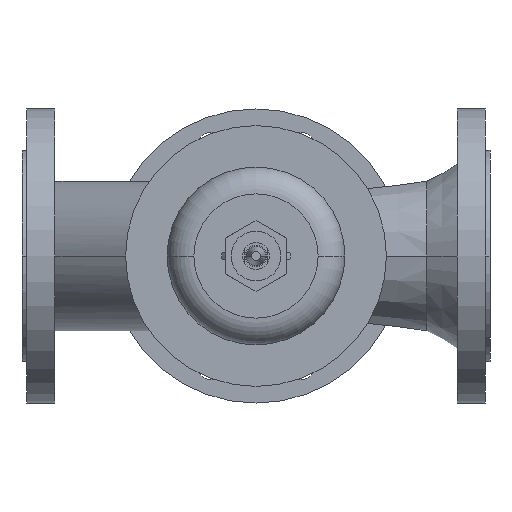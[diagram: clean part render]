
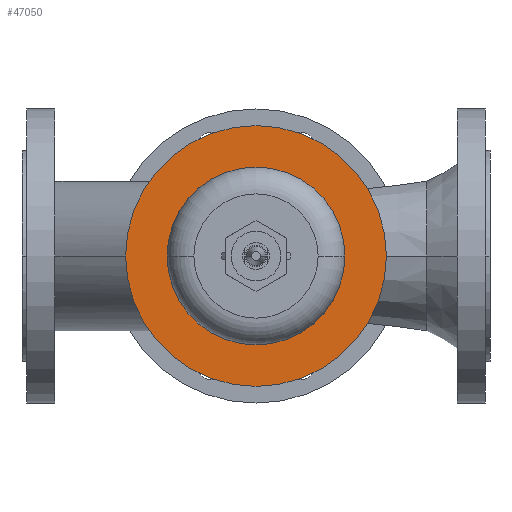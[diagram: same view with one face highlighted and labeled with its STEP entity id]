
A CAD part, front view. The second image highlights one B-rep face of the part: STEP entity #47050.
In plain terms, the highlighted planar face has unit normal (0, -1, 0).
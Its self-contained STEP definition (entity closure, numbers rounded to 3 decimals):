
#20560=CARTESIAN_POINT('',(241.5,-186.,0.));
#20570=VERTEX_POINT('',#20560);
#20600=CARTESIAN_POINT('',(175.,-186.,0.));
#20610=DIRECTION('',(0.,-1.,0.));
#20620=DIRECTION('',(-1.,0.,0.));
#20630=AXIS2_PLACEMENT_3D('',#20600,#20610,#20620);
#20640=CIRCLE('',#20630,66.5);
#20650=CARTESIAN_POINT('',(108.5,-186.,0.));
#20660=VERTEX_POINT('',#20650);
#20670=EDGE_CURVE('',#20660,#20570,#20640,.T.);
#20950=CARTESIAN_POINT('',(272.5,-186.,0.));
#20960=VERTEX_POINT('',#20950);
#20990=CARTESIAN_POINT('',(175.,-186.,0.));
#21000=DIRECTION('',(0.,-1.,0.));
#21010=DIRECTION('',(-1.,0.,0.));
#21020=AXIS2_PLACEMENT_3D('',#20990,#21000,#21010);
#21030=CIRCLE('',#21020,97.5);
#21040=CARTESIAN_POINT('',(77.5,-186.,0.));
#21050=VERTEX_POINT('',#21040);
#21060=EDGE_CURVE('',#20960,#21050,#21030,.T.);
#46900=CARTESIAN_POINT('',(93.,-186.,0.));
#46910=DIRECTION('',(0.,-1.,0.));
#46920=DIRECTION('',(-1.,0.,0.));
#46930=AXIS2_PLACEMENT_3D('',#46900,#46910,#46920);
#46940=PLANE('',#46930);
#46950=ORIENTED_EDGE('',*,*,#20670,.F.);
#46960=EDGE_CURVE('',#20570,#20660,#20640,.T.);
#46970=ORIENTED_EDGE('',*,*,#46960,.F.);
#46980=EDGE_LOOP('',(#46970,#46950));
#46990=FACE_BOUND('',#46980,.T.);
#47000=EDGE_CURVE('',#21050,#20960,#21030,.T.);
#47010=ORIENTED_EDGE('',*,*,#47000,.T.);
#47020=ORIENTED_EDGE('',*,*,#21060,.T.);
#47030=EDGE_LOOP('',(#47020,#47010));
#47040=FACE_OUTER_BOUND('',#47030,.T.);
#47050=ADVANCED_FACE('',(#46990,#47040),#46940,.T.);
